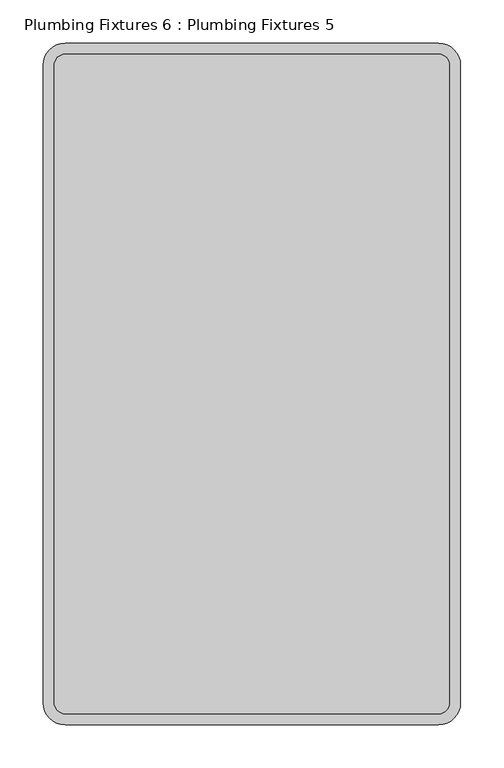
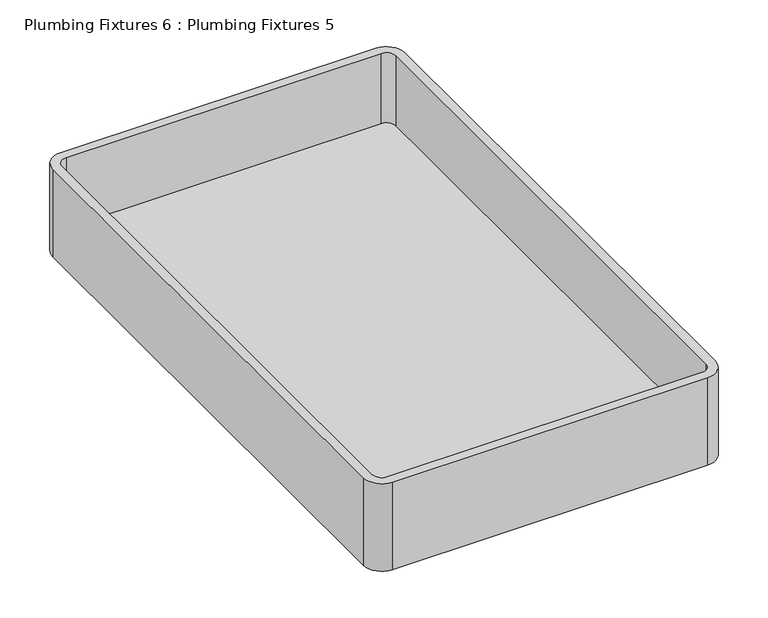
"""IFC4 building model written with IfcOpenShell, lengths in millimetres: flow terminal geometry, Plumbing Fixtures 6 : Plumbing Fixtures 5."""

import ifcopenshell
import ifcopenshell.guid

model = None  # the IFC model being written
_history = None  # IfcOwnerHistory: only IFC2X3 demands one
_inside = {}  # id of a spatial element -> (the spatial element, [elements in it])
_under = {}  # id of a project, library or spatial element -> (it, [spatial elements below it])
_declared = {}  # id of a project -> (the project, [libraries it declares])
_typed = {}  # id of a type object -> (the type object, [elements of that type])
_made_of = {}  # id of a material, layer set ... -> (it, [elements and type objects made of it])


def new_model(schema):
    """Start an empty IFC model of exactly this schema.

    Asked for "IFC4X3", IfcOpenShell would pick the latest addendum, in which some entities
    have other attributes; the version numbers below select the first issue.
    IFC2X3 requires an IfcOwnerHistory on every rooted entity: one is made here for all.
    """
    global model, _history
    if schema == "IFC4X3":
        model = ifcopenshell.file(schema_version=(4, 3, 0, 0))
    else:
        model = ifcopenshell.file(schema=schema)
    _inside.clear()
    _under.clear()
    _declared.clear()
    _typed.clear()
    _made_of.clear()
    _history = None
    if model.schema == "IFC2X3":
        org = make("IfcOrganization", Name="unknown")
        user = make(
            "IfcPersonAndOrganization",
            ThePerson=make("IfcPerson", FamilyName="unknown"),
            TheOrganization=org,
        )
        app = make(
            "IfcApplication",
            ApplicationDeveloper=org,
            Version="unknown",
            ApplicationFullName="unknown",
            ApplicationIdentifier="unknown",
        )
        _history = make(
            "IfcOwnerHistory",
            OwningUser=user,
            OwningApplication=app,
            ChangeAction="ADDED",
            CreationDate=0,
        )
    return model


def make(cls, **values):
    """One entity of the class cls with the attributes given. An attribute that is None is left unset."""
    return model.create_entity(
        cls, **{name: value for name, value in values.items() if value is not None}
    )


def rooted(cls, **values):
    """An entity with a GlobalId (a new one), such as an element, a storey or a relation."""
    return make(cls, GlobalId=ifcopenshell.guid.new(), OwnerHistory=_history, **values)


def si_unit(unit_type, name, prefix=None):
    """IfcSIUnit, for example si_unit("LENGTHUNIT", "METRE", prefix="MILLI")."""
    return make("IfcSIUnit", UnitType=unit_type, Prefix=prefix, Name=name)


def assignment(units):
    """IfcUnitAssignment: the units of a project."""
    return None if units is None else make("IfcUnitAssignment", Units=units)


def point(xyz):
    """IfcCartesianPoint."""
    return None if xyz is None else make("IfcCartesianPoint", Coordinates=xyz)


def direction(xyz):
    """IfcDirection."""
    return None if xyz is None else make("IfcDirection", DirectionRatios=xyz)


def frame(location, z_axis=None, x_axis=None):
    """IfcAxis2Placement3D, a coordinate frame: its origin and axes. An axis left out is left unset."""
    return make(
        "IfcAxis2Placement3D",
        Location=point(location),
        Axis=direction(z_axis),
        RefDirection=direction(x_axis),
    )


def origin():
    """The frame at (0, 0, 0) with its axes left unset."""
    return frame((0.0, 0.0, 0.0))


def place(relative_to, where):
    """IfcLocalPlacement: puts the frame where relative to a parent placement (None: the world)."""
    return make(
        "IfcLocalPlacement", PlacementRelTo=relative_to, RelativePlacement=where
    )


def context(
    kind, dimensions, precision=None, world=None, true_north=None, identifier=None
):
    """IfcGeometricRepresentationContext, for example the 3D "Model" context."""
    return make(
        "IfcGeometricRepresentationContext",
        ContextIdentifier=identifier,
        ContextType=kind,
        CoordinateSpaceDimension=dimensions,
        Precision=precision,
        WorldCoordinateSystem=world,
        TrueNorth=true_north,
    )


def project(units=None, contexts=None):
    """IfcProject with its units and contexts."""
    return rooted(
        "IfcProject",
        Name="project",
        RepresentationContexts=contexts,
        UnitsInContext=assignment(units),
    )


def spatial(cls, under=None, at=None, **own):
    """A site, building, storey or space (cls), placed at a placement, below another one or the project."""
    s = rooted(cls, ObjectPlacement=at, **own)
    if under is not None:
        _under.setdefault(under.id(), (under, []))[1].append(s)
    return s


def polyline(points):
    """IfcPolyline through the points."""
    return make("IfcPolyline", Points=[point(p) for p in points])


def circle_curve(where, radius):
    """IfcCircle in the frame where."""
    return make("IfcCircle", Position=where, Radius=radius)


def shape(context_of_items, identifier, shape_type, items):
    """IfcShapeRepresentation: the items that make up one representation, for example the "Body"."""
    return make(
        "IfcShapeRepresentation",
        ContextOfItems=context_of_items,
        RepresentationIdentifier=identifier,
        RepresentationType=shape_type,
        Items=items,
    )


def source(mapping_origin, context_of_items, identifier, shape_type, items):
    """IfcRepresentationMap: a shape defined once, which mapped items show again and again."""
    return make(
        "IfcRepresentationMap",
        MappingOrigin=mapping_origin,
        MappedRepresentation=shape(context_of_items, identifier, shape_type, items),
    )


def transform(
    local_origin,
    x_axis=None,
    y_axis=None,
    z_axis=None,
    scale=None,
    scale2=None,
    scale3=None,
    uniform=True,
):
    """IfcCartesianTransformationOperator3D, or its non-uniform kind. x_axis, y_axis, z_axis: its Axis1, 2, 3."""
    if uniform:
        return make(
            "IfcCartesianTransformationOperator3D",
            Axis1=direction(x_axis),
            Axis2=direction(y_axis),
            LocalOrigin=point(local_origin),
            Scale=scale,
            Axis3=direction(z_axis),
        )
    return make(
        "IfcCartesianTransformationOperator3DnonUniform",
        Axis1=direction(x_axis),
        Axis2=direction(y_axis),
        LocalOrigin=point(local_origin),
        Scale=scale,
        Axis3=direction(z_axis),
        Scale2=scale2,
        Scale3=scale3,
    )


def mapped(mapping_source, mapping_target):
    """IfcMappedItem: shows the shape of a source again, moved by a transform."""
    return make(
        "IfcMappedItem", MappingSource=mapping_source, MappingTarget=mapping_target
    )


def made_of(thing, what):
    """Note that an element or type object is made of a material, layer set ...; save() writes the relation."""
    if what is not None:
        _made_of.setdefault(what.id(), (what, []))[1].append(thing)
    return thing


def element(
    cls,
    number,
    at=None,
    inside=None,
    cuts=None,
    type_object=None,
    material=None,
    context=None,
    identifier="Body",
    shape_type=None,
    held_by="IfcProductDefinitionShape",
    body=None,
    shapes=None,
    **own,
):
    """One element of the class cls, such as IfcWall. Its Tag is "e" and its number.

    at: its placement. inside: the storey or other place that contains it. cuts: it is an
    opening in that element (IfcRelVoidsElement). A single representation is given by context,
    identifier, shape_type and body (its items); several are given by shapes. held_by: the class
    of the entity that holds the representations. save() writes the other relations.
    """
    e = rooted(cls, Tag="e%d" % number, ObjectPlacement=at, **own)
    if body is not None:
        shapes = [shape(context, identifier, shape_type, body)]
    if shapes is not None:
        e.Representation = make(held_by, Representations=shapes)
    if inside is not None:
        _inside.setdefault(inside.id(), (inside, []))[1].append(e)
    if cuts is not None:
        rooted(
            "IfcRelVoidsElement", RelatingBuildingElement=cuts, RelatedOpeningElement=e
        )
    if type_object is not None:
        _typed.setdefault(type_object.id(), (type_object, []))[1].append(e)
    return made_of(e, material)


def aggregate(whole, parts):
    """IfcRelAggregates: a whole, such as a stair, and the parts it consists of."""
    return rooted("IfcRelAggregates", RelatingObject=whole, RelatedObjects=parts)


def save(model, path):
    """Write the relations noted so far, then the file.

    IfcRelAggregates (storeys below a building ...), IfcRelContainedInSpatialStructure (elements
    in a storey), IfcRelDefinesByType, IfcRelAssociatesMaterial and IfcRelDeclares: one each for
    every whole, place, type object, material and project.
    """
    for whole, parts in _under.values():
        aggregate(whole, parts)
    for where, things in _inside.values():
        rooted(
            "IfcRelContainedInSpatialStructure",
            RelatedElements=things,
            RelatingStructure=where,
        )
    for kind, things in _typed.values():
        rooted("IfcRelDefinesByType", RelatedObjects=things, RelatingType=kind)
    for what, things in _made_of.values():
        rooted("IfcRelAssociatesMaterial", RelatedObjects=things, RelatingMaterial=what)
    for by, libraries in _declared.values():
        rooted("IfcRelDeclares", RelatingContext=by, RelatedDefinitions=libraries)
    model.write(path)


def plane_surface(at):
    """IfcPlane: the flat surface through the origin of the frame at, square to its z axis."""
    return make("IfcPlane", Position=at)


def cylinder_surface(at, radius):
    """IfcCylindricalSurface: all points at the distance radius from the z axis of the frame at."""
    return make("IfcCylindricalSurface", Position=at, Radius=radius)


def revolved_surface(curve, axis_point, axis_direction):
    """IfcSurfaceOfRevolution: the curve turned about the line through axis_point along axis_direction."""
    return make(
        "IfcSurfaceOfRevolution",
        SweptCurve=make("IfcArbitraryOpenProfileDef", ProfileType="CURVE", Curve=curve),
        AxisPosition=make("IfcAxis1Placement", Location=point(axis_point), Axis=direction(axis_direction)),
    )


def advanced_brep(points, edges, surfaces, faces):
    """IfcAdvancedBrep: a solid bounded by faces that lie on surfaces and meet in shared edges.

    An edge is (start, end): straight between two places in points (the first is 0);
    or (start, end, curve); or (start, end, curve, False) where it runs against its curve.
    A face is (place in surfaces, loops), or (place, loops, False) where it looks against
    its surface's normal. A loop lists edges by number (the first is 1), with a minus sign
    where the edge is run from its end to its start. The first loop is the outer one.
    """
    corners = [point(p) for p in points]
    vertices = [make("IfcVertexPoint", VertexGeometry=c) for c in corners]
    made = []
    for start, end, *more in edges:
        made.append(
            make(
                "IfcEdgeCurve",
                EdgeStart=vertices[start],
                EdgeEnd=vertices[end],
                EdgeGeometry=more[0] if more else make("IfcPolyline", Points=[corners[start], corners[end]]),
                SameSense=more[1] if len(more) > 1 else True,
            )
        )
    hull = []
    for where, loops, *sense in faces:
        bounds = []
        for j, loop in enumerate(loops):
            ring = [make("IfcOrientedEdge", EdgeElement=made[abs(k) - 1], Orientation=k > 0) for k in loop]
            bounds.append(
                make(
                    "IfcFaceOuterBound" if j == 0 else "IfcFaceBound",
                    Bound=make("IfcEdgeLoop", EdgeList=ring),
                    Orientation=True,
                )
            )
        hull.append(make("IfcAdvancedFace", Bounds=bounds, FaceSurface=surfaces[where], SameSense=sense[0] if sense else True))
    return make("IfcAdvancedBrep", Outer=make("IfcClosedShell", CfsFaces=hull))


def plumbing_fixtures_6_plumbing_fixtures_5_a5df739f(model_context):
    return source(origin(), model_context, "Body", "AdvancedBrep", [
        advanced_brep(
        [(3886.2, 6959.4947939, 4127.5), (3860.8, 6984.8947939, 4127.5), (3429.0, 6984.8947939, 4127.5), (3403.6, 6959.4947939, 4127.5), (3403.6, 6222.8947939, 4127.5), (3429.0, 6197.4947939, 4127.5), (3860.8, 6197.4947939, 4127.5), (3886.2, 6222.8947939, 4127.5), (3860.8, 6972.1947939, 4127.5), (3873.5, 6959.4947939, 4127.5), (3873.5, 6222.8947939, 4127.5), (3860.8, 6210.1947939, 4127.5), (3429.0, 6210.1947939, 4127.5), (3416.3, 6222.8947939, 4127.5), (3416.3, 6959.4947939, 4127.5), (3429.0, 6972.1947939, 4127.5), (3886.2, 6959.4947939, 4000.5), (3886.2, 6222.8947939, 4000.5), (3860.8, 6197.4947939, 4000.5), (3429.0, 6197.4947939, 4000.5), (3403.6, 6222.8947939, 4000.5), (3403.6, 6959.4947939, 4000.5), (3429.0, 6984.8947939, 4000.5), (3860.8, 6984.8947939, 4000.5), (3860.8, 6972.1947939, 4025.9), (3429.0, 6972.1947939, 4025.9), (3416.3, 6959.4947939, 4025.9), (3416.3, 6222.8947939, 4025.9), (3429.0, 6210.1947939, 4025.9), (3860.8, 6210.1947939, 4025.9), (3873.5, 6222.8947939, 4025.9), (3873.5, 6959.4947939, 4025.9)],
        [
            (0, 1, circle_curve(frame((3860.8, 6959.4947939, 4127.5), z_axis=(0.0, 0.0, 1.0), x_axis=(0.0, 1.0, 0.0)), 25.4)),
            (1, 2),
            (2, 3, circle_curve(frame((3429.0, 6959.4947939, 4127.5), z_axis=(0.0, 0.0, 1.0), x_axis=(0.0, 1.0, 0.0)), 25.4)),
            (3, 4),
            (4, 5, circle_curve(frame((3429.0, 6222.8947939, 4127.5), z_axis=(0.0, 0.0, 1.0), x_axis=(0.0, 1.0, 0.0)), 25.4)),
            (5, 6),
            (6, 7, circle_curve(frame((3860.8, 6222.8947939, 4127.5), z_axis=(0.0, 0.0, 1.0), x_axis=(0.0, 1.0, 0.0)), 25.4)),
            (7, 0),
            (8, 9, circle_curve(frame((3860.8, 6959.4947939, 4127.5), z_axis=(0.0, 0.0, -1.0), x_axis=(0.0, 1.0, 0.0)), 12.7)),
            (9, 10),
            (10, 11, circle_curve(frame((3860.8, 6222.8947939, 4127.5), z_axis=(0.0, 0.0, -1.0), x_axis=(0.0, 1.0, 0.0)), 12.7)),
            (11, 12),
            (12, 13, circle_curve(frame((3429.0, 6222.8947939, 4127.5), z_axis=(0.0, 0.0, -1.0), x_axis=(0.0, 1.0, 0.0)), 12.7)),
            (13, 14),
            (14, 15, circle_curve(frame((3429.0, 6959.4947939, 4127.5), z_axis=(0.0, 0.0, -1.0), x_axis=(0.0, 1.0, 0.0)), 12.7)),
            (15, 8),
            (16, 17),
            (17, 18, circle_curve(frame((3860.8, 6222.8947939, 4000.5), z_axis=(0.0, 0.0, -1.0), x_axis=(0.0, 1.0, 0.0)), 25.4)),
            (18, 19),
            (19, 20, circle_curve(frame((3429.0, 6222.8947939, 4000.5), z_axis=(0.0, 0.0, -1.0), x_axis=(0.0, 1.0, 0.0)), 25.4)),
            (20, 21),
            (21, 22, circle_curve(frame((3429.0, 6959.4947939, 4000.5), z_axis=(0.0, 0.0, -1.0), x_axis=(0.0, 1.0, 0.0)), 25.4)),
            (22, 23),
            (23, 16, circle_curve(frame((3860.8, 6959.4947939, 4000.5), z_axis=(0.0, 0.0, -1.0), x_axis=(0.0, 1.0, 0.0)), 25.4)),
            (0, 16),
            (23, 1),
            (22, 2),
            (21, 3),
            (20, 4),
            (19, 5),
            (18, 6),
            (17, 7),
            (24, 25),
            (25, 26, circle_curve(frame((3429.0, 6959.4947939, 4025.9), z_axis=(0.0, 0.0, 1.0), x_axis=(0.0, 1.0, 0.0)), 12.7)),
            (26, 27),
            (27, 28, circle_curve(frame((3429.0, 6222.8947939, 4025.9), z_axis=(0.0, 0.0, 1.0), x_axis=(0.0, 1.0, 0.0)), 12.7)),
            (28, 29),
            (29, 30, circle_curve(frame((3860.8, 6222.8947939, 4025.9), z_axis=(0.0, 0.0, 1.0), x_axis=(0.0, 1.0, 0.0)), 12.7)),
            (30, 31),
            (31, 24, circle_curve(frame((3860.8, 6959.4947939, 4025.9), z_axis=(0.0, 0.0, 1.0), x_axis=(0.0, 1.0, 0.0)), 12.7)),
            (31, 9),
            (8, 24),
            (30, 10),
            (29, 11),
            (28, 12),
            (27, 13),
            (26, 14),
            (25, 15),
        ],
        [
            plane_surface(frame((3860.8, 6984.8947939, 4127.5), z_axis=(0.0, 0.0, 1.0), x_axis=(-1.0, 0.0, 0.0))),
            plane_surface(frame((3860.8, 6984.8947939, 4000.5), z_axis=(0.0, 0.0, -1.0), x_axis=(1.0, 0.0, 0.0))),
            cylinder_surface(frame((3860.8, 6959.4947939, 4000.5), z_axis=(0.0, 0.0, 1.0), x_axis=(0.0, 1.0, 0.0)), 25.4),
            plane_surface(frame((3860.8, 6984.8947939, 4127.5), z_axis=(0.0, 1.0, 0.0), x_axis=(0.0, 0.0, -1.0))),
            cylinder_surface(frame((3429.0, 6959.4947939, 4000.5), z_axis=(0.0, 0.0, 1.0), x_axis=(0.0, 1.0, 0.0)), 25.4),
            plane_surface(frame((3403.6, 6959.4947939, 4127.5), z_axis=(-1.0, 0.0, 0.0), x_axis=(0.0, 0.0, -1.0))),
            cylinder_surface(frame((3429.0, 6222.8947939, 4000.5), z_axis=(0.0, 0.0, 1.0), x_axis=(0.0, 1.0, 0.0)), 25.4),
            plane_surface(frame((3429.0, 6197.4947939, 4127.5), z_axis=(0.0, -1.0, 0.0), x_axis=(0.0, 0.0, -1.0))),
            cylinder_surface(frame((3860.8, 6222.8947939, 4000.5), z_axis=(0.0, 0.0, 1.0), x_axis=(0.0, 1.0, 0.0)), 25.4),
            plane_surface(frame((3886.2, 6222.8947939, 4127.5), z_axis=(1.0, 0.0, 0.0), x_axis=(0.0, 0.0, -1.0))),
            plane_surface(frame((3860.8, 6972.1947939, 4025.9), z_axis=(0.0, 0.0, 1.0), x_axis=(1.0, 0.0, 0.0))),
            revolved_surface(polyline([(3860.8, 6972.1947939, 4025.9), (3860.8, 6972.1947939, 4127.5)]), (3860.8, 6959.4947939, 4127.5), (0.0, 0.0, -1.0)),
            plane_surface(frame((3873.5, 6959.4947939, 4025.9), z_axis=(-1.0, 0.0, 0.0), x_axis=(0.0, 0.0, 1.0))),
            revolved_surface(polyline([(3860.8, 6235.5947939, 4025.9), (3860.8, 6235.5947939, 4127.5)]), (3860.8, 6222.8947939, 4127.5), (0.0, 0.0, -1.0)),
            plane_surface(frame((3860.8, 6210.1947939, 4025.9), z_axis=(0.0, 1.0, 0.0), x_axis=(0.0, 0.0, 1.0))),
            revolved_surface(polyline([(3429.0, 6235.5947939, 4025.9), (3429.0, 6235.5947939, 4127.5)]), (3429.0, 6222.8947939, 4127.5), (0.0, 0.0, -1.0)),
            plane_surface(frame((3416.3, 6222.8947939, 4025.9), z_axis=(1.0, 0.0, 0.0), x_axis=(0.0, 0.0, 1.0))),
            revolved_surface(polyline([(3429.0, 6972.1947939, 4025.9), (3429.0, 6972.1947939, 4127.5)]), (3429.0, 6959.4947939, 4127.5), (0.0, 0.0, -1.0)),
            plane_surface(frame((3429.0, 6972.1947939, 4025.9), z_axis=(0.0, -1.0, 0.0), x_axis=(0.0, 0.0, 1.0))),
        ],
        [
            (0, [[1, 2, 3, 4, 5, 6, 7, 8], [9, 10, 11, 12, 13, 14, 15, 16]]),
            (1, [[17, 18, 19, 20, 21, 22, 23, 24]]),
            (2, [[-1, 25, -24, 26]]),
            (3, [[-2, -26, -23, 27]]),
            (4, [[-3, -27, -22, 28]]),
            (5, [[-4, -28, -21, 29]]),
            (6, [[-5, -29, -20, 30]]),
            (7, [[-6, -30, -19, 31]]),
            (8, [[-7, -31, -18, 32]]),
            (9, [[-8, -32, -17, -25]]),
            (10, [[33, 34, 35, 36, 37, 38, 39, 40]]),
            (11, [[-40, 41, -9, 42]]),
            (12, [[-39, 43, -10, -41]]),
            (13, [[-38, 44, -11, -43]]),
            (14, [[-37, 45, -12, -44]]),
            (15, [[-36, 46, -13, -45]]),
            (16, [[-35, 47, -14, -46]]),
            (17, [[-34, 48, -15, -47]]),
            (18, [[-33, -42, -16, -48]]),
        ],
    ),
    ])


if __name__ == "__main__":
    model = new_model("IFC4")
    model_context = context("Model", 3, world=origin())
    ifc_project = project(units=[si_unit("LENGTHUNIT", "METRE", prefix="MILLI")], contexts=[model_context])
    site = spatial("IfcSite", under=ifc_project)
    building = spatial("IfcBuilding", under=site)
    placement = place(None, origin())
    plumbing_fixtures_6_plumbing_fixtures_5_shape = plumbing_fixtures_6_plumbing_fixtures_5_a5df739f(model_context)
    element("IfcFlowTerminal", 1, ObjectType="Plumbing Fixtures 6 : Plumbing Fixtures 5", at=placement, inside=building, context=model_context, shape_type="MappedRepresentation", body=[
        mapped(plumbing_fixtures_6_plumbing_fixtures_5_shape, transform((0.0, 0.0, 0.0), x_axis=(1.0, 0.0, 0.0), y_axis=(0.0, 1.0, 0.0), z_axis=(0.0, 0.0, 1.0))),
    ])
    save(model, "model.ifc")
